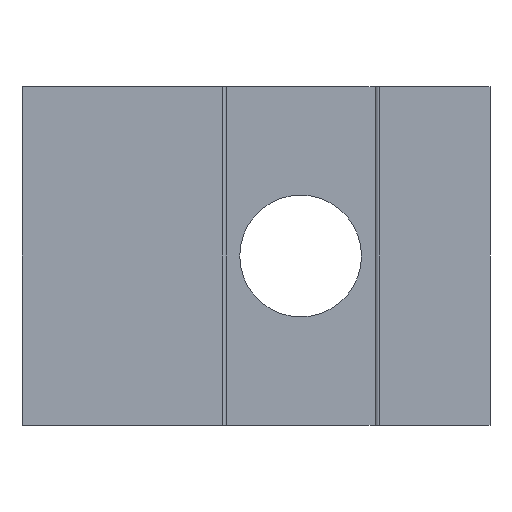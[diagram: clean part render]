
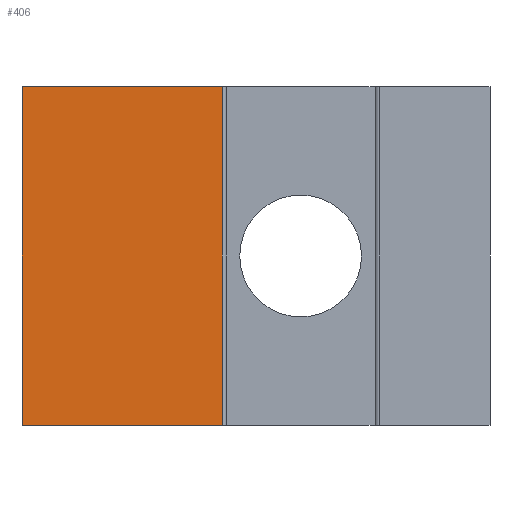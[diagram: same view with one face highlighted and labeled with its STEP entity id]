
A CAD part, left-side view. The second image highlights one B-rep face of the part: STEP entity #406.
In plain terms, the highlighted planar face has unit normal (-1, 0, 0).
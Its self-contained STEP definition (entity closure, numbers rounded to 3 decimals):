
#11 = VECTOR ( 'NONE', #43, 1000. ) ;
#43 = DIRECTION ( 'NONE',  ( 0., -1., 0. ) ) ;
#47 = CARTESIAN_POINT ( 'NONE',  ( -6.25, 34.6, 25. ) ) ;
#65 = LINE ( 'NONE', #335, #11 ) ;
#76 = VERTEX_POINT ( 'NONE', #351 ) ;
#103 = DIRECTION ( 'NONE',  ( 0., -1., 0. ) ) ;
#107 = CARTESIAN_POINT ( 'NONE',  ( -6.25, 19.8, 25. ) ) ;
#121 = ORIENTED_EDGE ( 'NONE', *, *, #485, .T. ) ;
#160 = EDGE_CURVE ( 'NONE', #76, #187, #321, .T. ) ;
#171 = DIRECTION ( 'NONE',  ( 0., 0., -1. ) ) ;
#178 = EDGE_CURVE ( 'NONE', #520, #76, #440, .T. ) ;
#187 = VERTEX_POINT ( 'NONE', #630 ) ;
#199 = DIRECTION ( 'NONE',  ( 0., 0., -1. ) ) ;
#205 = CARTESIAN_POINT ( 'NONE',  ( -6.25, 34.6, 25. ) ) ;
#210 = FACE_OUTER_BOUND ( 'NONE', #544, .T. ) ;
#312 = VECTOR ( 'NONE', #171, 1000. ) ;
#319 = AXIS2_PLACEMENT_3D ( 'NONE', #205, #480, #702 ) ;
#321 = LINE ( 'NONE', #107, #312 ) ;
#335 = CARTESIAN_POINT ( 'NONE',  ( -6.25, 34.6, 0. ) ) ;
#351 = CARTESIAN_POINT ( 'NONE',  ( -6.25, 19.8, 25. ) ) ;
#352 = VECTOR ( 'NONE', #199, 1000. ) ;
#366 = CARTESIAN_POINT ( 'NONE',  ( -6.25, 34.6, 25. ) ) ;
#378 = ORIENTED_EDGE ( 'NONE', *, *, #178, .F. ) ;
#397 = ORIENTED_EDGE ( 'NONE', *, *, #160, .F. ) ;
#406 = ADVANCED_FACE ( 'NONE', ( #210 ), #587, .F. ) ;
#440 = LINE ( 'NONE', #447, #452 ) ;
#447 = CARTESIAN_POINT ( 'NONE',  ( -6.25, 34.6, 25. ) ) ;
#452 = VECTOR ( 'NONE', #103, 1000. ) ;
#480 = DIRECTION ( 'NONE',  ( 1., 0., 0. ) ) ;
#485 = EDGE_CURVE ( 'NONE', #518, #187, #65, .T. ) ;
#501 = CARTESIAN_POINT ( 'NONE',  ( -6.25, 34.6, 0. ) ) ;
#518 = VERTEX_POINT ( 'NONE', #501 ) ;
#520 = VERTEX_POINT ( 'NONE', #47 ) ;
#544 = EDGE_LOOP ( 'NONE', ( #121, #397, #378, #680 ) ) ;
#587 = PLANE ( 'NONE',  #319 ) ;
#630 = CARTESIAN_POINT ( 'NONE',  ( -6.25, 19.8, 0. ) ) ;
#680 = ORIENTED_EDGE ( 'NONE', *, *, #700, .T. ) ;
#699 = LINE ( 'NONE', #366, #352 ) ;
#700 = EDGE_CURVE ( 'NONE', #520, #518, #699, .T. ) ;
#702 = DIRECTION ( 'NONE',  ( 0., 0., -1. ) ) ;
